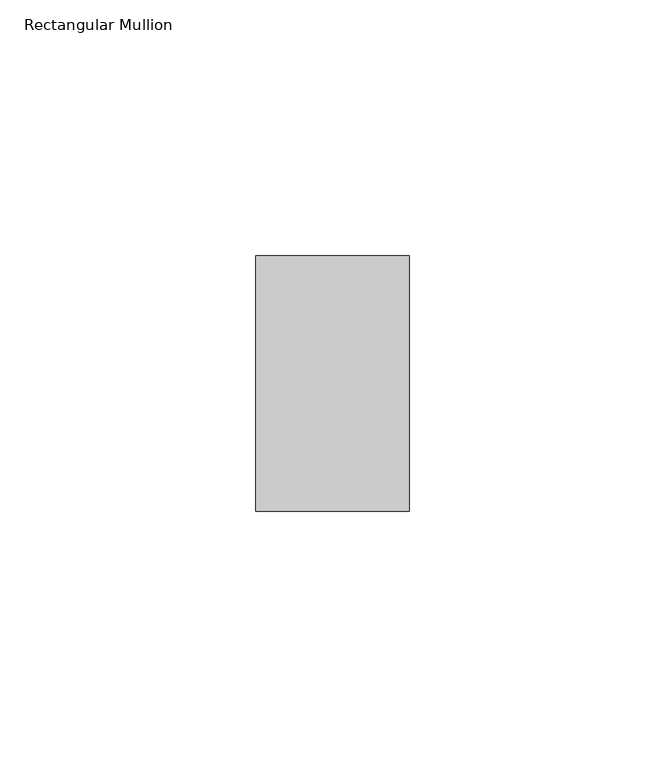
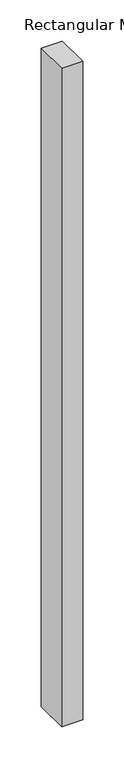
"""IFC4 building model written with IfcOpenShell, lengths in millimetres: member geometry, Rectangular Mullion : ARQ_TV_MULL_50x30mm."""

from ifc_helpers import new_model, si_unit, frame, origin, place, context, project, spatial, polyline, outline, extrude, source, transform, mapped, element, save


def rectangular_mullion_e6a89077(model_context):
    return source(origin(), model_context, "Body", "SweptSolid", [
        extrude(outline(polyline([(15.0, 25.0), (15.0, -25.0), (-15.0, -25.0), (-15.0, 25.0), (15.0, 25.0)])), frame((0.0, 0.0, -979.7664683), z_axis=(0.0, 0.0, 1.0), x_axis=(1.0, 0.0, 0.0)), (0.0, 0.0, 1.0), 979.7664683),
    ])


if __name__ == "__main__":
    model = new_model("IFC4")
    model_context = context("Model", 3, world=origin())
    ifc_project = project(units=[si_unit("LENGTHUNIT", "METRE", prefix="MILLI")], contexts=[model_context])
    site = spatial("IfcSite", under=ifc_project)
    building = spatial("IfcBuilding", under=site)
    placement = place(None, origin())
    rectangular_mullion_shape = rectangular_mullion_e6a89077(model_context)
    element("IfcMember", 1, ObjectType="Rectangular Mullion : ARQ_TV_MULL_50x30mm", at=placement, inside=building, context=model_context, shape_type="MappedRepresentation", body=[
        mapped(rectangular_mullion_shape, transform((0.0, 0.0, 0.0), x_axis=(1.0, 0.0, 0.0), y_axis=(0.0, 1.0, 0.0), z_axis=(0.0, 0.0, 1.0))),
    ])
    save(model, "model.ifc")
